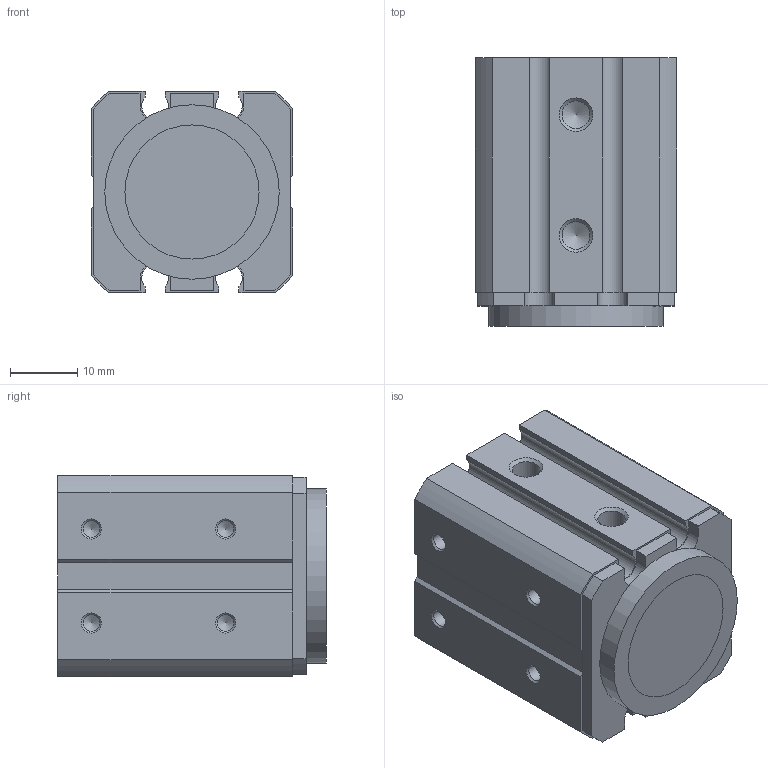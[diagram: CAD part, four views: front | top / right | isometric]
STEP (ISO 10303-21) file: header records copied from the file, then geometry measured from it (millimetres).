
FILE_DESCRIPTION(/* description */ ('STEP AP242','CAx-IF Rec.Pracs.---Representation and Presentation of Product Manufacturing Information (PMI)---4.0---2014-10-13','CAx-IF Rec.Pracs.---3D Tessellated Geometry---0.4---2014-09-14','2;1'),/* implementation_level */ '2;1');
FILE_NAME(/* name */ 'MHM-16D(0_0)',/* time_stamp */ '2025-10-13T11:42:04+02:00',/* author */ ('License CC BY-ND 4.0'),/* organization */ ('CADENAS'),/* preprocessor_version */ 'ST-DEVELOPER v19.3',/* originating_system */ 'PARTsolutions',/* authorisation */ ' ');
FILE_SCHEMA (('AP242_MANAGED_MODEL_BASED_3D_ENGINEERING_MIM_LF { 1 0 10303 442 1 1 4 }'));
Length unit declared in the file: millimetre
Products named in the file (3): MHM-16D(0_0); MHM-16D(0_0)_BODY; MHM-16D_PAD
Assembly tree (2 placements, depth 2):
  MHM-16D(0_0)
    MHM-16D(0_0)_BODY
    MHM-16D_PAD
Bounding box: 30 x 40 x 30 mm (x, y, z)
Volume: 31448.5 mm3; surface area: 8793.2 mm2
Topology: 2 solids, 2 shells, 112 faces, 297 edges, 191 vertices
Faces by surface type: plane 50, cylinder 34, cone 28
Full cylindrical faces by diameter (mm): 2.459 x12, 4.134 x2, 17.6 x1, 20 x2, 26 x1
Entity records: 3128 total; most frequent: DIRECTION 538, CARTESIAN_POINT 521, ORIENTED_EDGE 452, EDGE_CURVE 226, AXIS2_PLACEMENT_3D 197, VERTEX_POINT 180, FACE_BOUND 176, EDGE_LOOP 162
